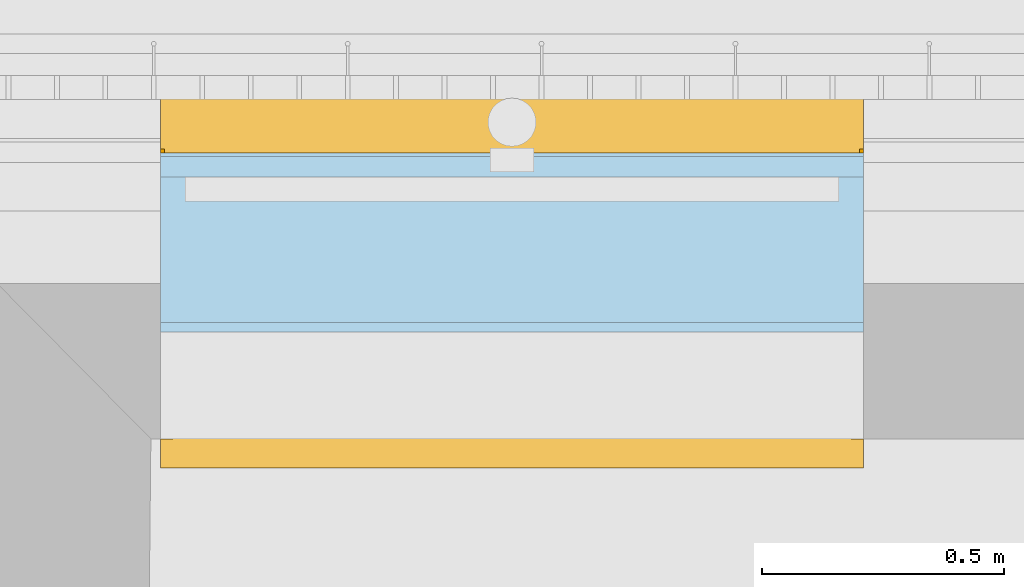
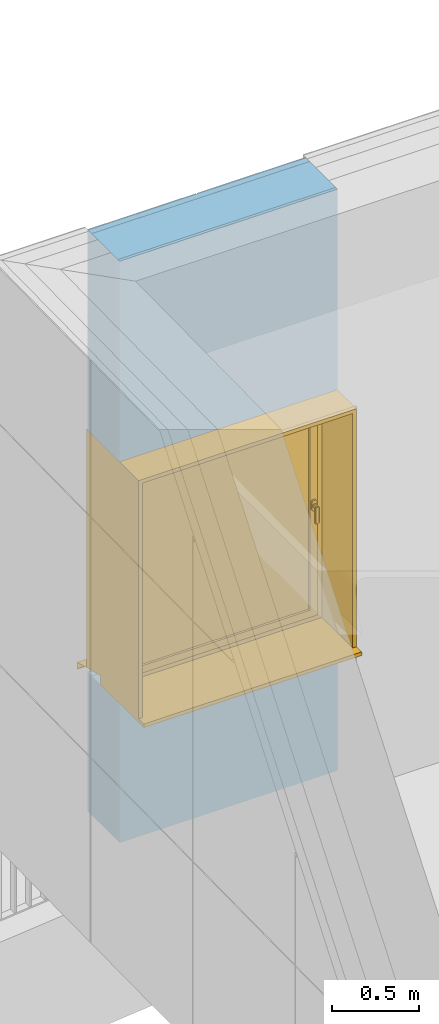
# One storey, part 132 of 418: 1 window, 2 openings, 1 element without a shape of its own, plus 4 elements that do not belong to this part.
"""IFC2X3 building model written with IfcOpenShell, lengths in millimetres."""

from ifc_helpers import new_model, entity, si_unit, converted_unit, derived_unit, money_unit, direction, frame, origin_with_axes, origin_2d_with_axis, place, context, subcontext, project, spatial, polyline, rectangle, outline, extrude, open_shell, faceted_brep, surface_model, material, type_object, element, fill, aggregate, save


model = new_model("IFC2X3")

# Units and contexts
model_context = context("Model", 3, precision=0.01, world=origin_with_axes(), true_north=direction((0.0, 1.0)))
body_context = subcontext(model_context, "Body", "Model", "MODEL_VIEW")
ifc_project = project(units=[si_unit("LENGTHUNIT", "METRE", prefix="MILLI"), si_unit("AREAUNIT", "SQUARE_METRE"), si_unit("VOLUMEUNIT", "CUBIC_METRE"), converted_unit("PLANEANGLEUNIT", "DEGREE", entity("IfcPlaneAngleMeasure", 0.0174532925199), si_unit("PLANEANGLEUNIT", "RADIAN"), dimensions=[0, 0, 0, 0, 0, 0, 0]), si_unit("SOLIDANGLEUNIT", "STERADIAN"), money_unit("EUR"), converted_unit("TIMEUNIT", "Year", entity("IfcTimeMeasure", 31556926.0), si_unit("TIMEUNIT", "SECOND"), dimensions=[0, 0, 1, 0, 0, 0, 0]), si_unit("MASSUNIT", "GRAM", prefix="KILO"), si_unit("THERMODYNAMICTEMPERATUREUNIT", "DEGREE_CELSIUS"), si_unit("LUMINOUSINTENSITYUNIT", "LUMEN"), si_unit("ENERGYUNIT", "JOULE", prefix="MEGA"), derived_unit("THERMALCONDUCTANCEUNIT", [(si_unit("POWERUNIT", "WATT"), 1), (si_unit("LENGTHUNIT", "METRE"), -1), (si_unit("THERMODYNAMICTEMPERATUREUNIT", "KELVIN"), -1)]), derived_unit("SPECIFICHEATCAPACITYUNIT", [(si_unit("ENERGYUNIT", "JOULE"), 1), (si_unit("MASSUNIT", "GRAM", prefix="KILO"), -1), (si_unit("THERMODYNAMICTEMPERATUREUNIT", "KELVIN"), -1)]), derived_unit("MASSDENSITYUNIT", [(si_unit("MASSUNIT", "GRAM", prefix="KILO"), 1), (si_unit("VOLUMEUNIT", "CUBIC_METRE"), -1)])], contexts=[model_context])

# Site, building, storey
site_placement = place(None, origin_with_axes())
site = spatial("IfcSite", under=ifc_project, at=site_placement, Name="Paldiski mnt 245/1, Tallinn, Harjumaa", CompositionType="COMPLEX")
building_placement = place(site_placement, origin_with_axes())
building = spatial("IfcBuilding", under=site, at=building_placement, Name="RKAS Hoone üldnimetus (kasutust iseloomustav) -> IFC Project Manager -> SOLIBRI", CompositionType="ELEMENT")
storey_placement = place(building_placement, origin_with_axes())
storey = spatial("IfcBuildingStorey", under=building, at=storey_placement, Name="Esimene korrus", CompositionType="ELEMENT", Elevation=0.0)

# Window
window_style = type_object("IfcWindowStyle", Name="Window 23", ConstructionType="NOTDEFINED", OperationType="SINGLE_PANEL", ParameterTakesPrecedence=False, Sizeable=False)
wall_placement = place(storey_placement, frame((-57859.3073259, 35989.8286373, 0.0), z_axis=(0.0, 0.0, 1.0), x_axis=(-1.0, 0.0, 0.0)))
opening_1_placement = place(wall_placement, frame((725.0, 0.0, 980.0), z_axis=(0.0, 0.0, 1.0), x_axis=(1.0, 0.0, 0.0)))
window_placement = place(opening_1_placement, frame((-725.0, 0.0, 0.0), z_axis=(0.0, 0.0, 1.0), x_axis=(1.0, 0.0, 0.0)))
window = element("IfcWindow", 1, at=window_placement, inside=storey, type_object=window_style, Name="A-06", ObjectType="WINDOW", OverallHeight=1700.0, OverallWidth=1450.0, context=body_context, shape_type="SurfaceModel", body=[
    surface_model("IfcShellBasedSurfaceModel", [(1450.0, -221.0, 75.0), (0.0, -221.0, 75.0), (0.0, -221.0, 65.0), (1450.0, -221.0, 65.0), (0.0, -490.0, -7.0), (1450.0, -490.0, -7.0), (0.0, -490.0, -57.0), (1450.0, -490.0, -57.0), (0.0, -470.0, -37.0), (1450.0, -470.0, -37.0)], [open_shell([[[0, 1, 2, 3]], [[3, 2, 4, 5]], [[5, 4, 6, 7]], [[7, 6, 8, 9]]])]),
    faceted_brep([(0.0, -135.0, 0.0), (0.0, -135.0, 25.0), (0.0, 0.0, 25.0), (0.0, 0.0, 0.0), (1450.0, -135.0, 0.0), (1450.0, -135.0, 25.0), (1450.0, 0.0, 25.0), (1450.0, 280.0, 25.0), (0.0, 280.0, 25.0), (0.0, 280.0, 0.0), (1450.0, 280.0, 0.0), (1450.0, 0.0, 0.0)], [[[0, 1, 2, 3]], [[4, 5, 1, 0]], [[1, 5, 6, 7, 8, 2]], [[3, 2, 8, 9]], [[0, 3, 9, 10, 11, 4]], [[11, 6, 5, 4]], [[10, 7, 6, 11]], [[9, 8, 7, 10]]]),
    faceted_brep([(1450.0, -135.0, 25.0), (1450.0, -135.0, 1700.0), (1424.0, -135.0, 1674.0), (1424.0, -135.0, 25.0), (1450.0, 0.0, 25.0), (1450.0, 0.0, 1700.0), (1424.0, 0.0, 1674.0), (1424.0, 0.0, 25.0)], [[[0, 1, 2, 3]], [[4, 5, 1, 0]], [[6, 2, 1, 5]], [[3, 2, 6, 7]], [[7, 4, 0, 3]], [[7, 6, 5, 4]]]),
    faceted_brep([(26.0, -135.0, 25.0), (26.0, -135.0, 1674.0), (0.0, -135.0, 1700.0), (0.0, -135.0, 25.0), (26.0, 0.0, 25.0), (26.0, 0.0, 1674.0), (0.0, 0.0, 1700.0), (0.0, 0.0, 25.0)], [[[0, 1, 2, 3]], [[4, 5, 1, 0]], [[6, 2, 1, 5]], [[3, 2, 6, 7]], [[7, 4, 0, 3]], [[7, 6, 5, 4]]]),
    faceted_brep([(1424.0, -135.0, 1674.0), (26.0, -135.0, 1674.0), (26.0, 0.0, 1674.0), (1424.0, 0.0, 1674.0), (1450.0, -135.0, 1700.0), (0.0, -135.0, 1700.0), (0.0, 0.0, 1700.0), (1450.0, 0.0, 1700.0)], [[[0, 1, 2, 3]], [[0, 4, 5, 1]], [[1, 5, 6, 2]], [[3, 2, 6, 7]], [[4, 0, 3, 7]], [[5, 4, 7, 6]]]),
    faceted_brep([(1450.0, 0.0, 25.0), (1450.0, 0.0, 1700.0), (1424.0, 0.0, 1674.0), (1424.0, 0.0, 25.0), (1450.0, 220.0, 25.0), (1450.0, 220.0, 1700.0), (1424.0, 220.0, 1674.0), (1424.0, 220.0, 25.0)], [[[0, 1, 2, 3]], [[4, 5, 1, 0]], [[5, 6, 2, 1]], [[3, 2, 6, 7]], [[7, 4, 0, 3]], [[7, 6, 5, 4]]]),
    faceted_brep([(26.0, 0.0, 25.0), (26.0, 0.0, 1674.0), (0.0, 0.0, 1700.0), (0.0, 0.0, 25.0), (26.0, 220.0, 25.0), (26.0, 220.0, 1674.0), (0.0, 220.0, 1700.0), (0.0, 220.0, 25.0)], [[[0, 1, 2, 3]], [[4, 5, 1, 0]], [[5, 6, 2, 1]], [[3, 2, 6, 7]], [[7, 4, 0, 3]], [[7, 6, 5, 4]]]),
    faceted_brep([(1450.0, 220.0, 1700.0), (1450.0, 0.0, 1700.0), (1424.0, 0.0, 1674.0), (1424.0, 220.0, 1674.0), (0.0, 220.0, 1700.0), (0.0, 0.0, 1700.0), (26.0, 0.0, 1674.0), (26.0, 220.0, 1674.0)], [[[0, 1, 2, 3]], [[4, 5, 1, 0]], [[1, 5, 6, 2]], [[3, 2, 6, 7]], [[0, 3, 7, 4]], [[7, 6, 5, 4]]]),
    faceted_brep([(1442.0, -370.0, 25.1189591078), (1442.0, -370.0, 1692.0), (1442.0, -220.0, 1692.0), (1442.0, -220.0, 75.0), (1442.0, -221.0, 75.0), (1442.0, -221.0, 65.0), (1450.0, -370.0, 25.1189591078), (1450.0, -370.0, 1700.0), (1450.0, -220.0, 1700.0), (1450.0, -220.0, 75.0), (1450.0, -221.0, 75.0), (1450.0, -221.0, 65.0)], [[[0, 1, 2, 3, 4, 5]], [[6, 7, 1, 0]], [[8, 2, 1, 7]], [[3, 2, 8, 9]], [[3, 9, 10, 4]], [[4, 10, 11, 5]], [[5, 11, 6, 0]], [[11, 10, 9, 8, 7, 6]]]),
    faceted_brep([(0.0, -370.0, 25.1189591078), (0.0, -370.0, 1700.0), (0.0, -220.0, 1700.0), (0.0, -220.0, 75.0), (0.0, -221.0, 75.0), (0.0, -221.0, 65.0), (8.0, -370.0, 25.1189591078), (8.0, -370.0, 1692.0), (8.0, -220.0, 1692.0), (8.0, -220.0, 75.0), (8.0, -221.0, 75.0), (8.0, -221.0, 65.0)], [[[0, 1, 2, 3, 4, 5]], [[6, 7, 1, 0]], [[8, 2, 1, 7]], [[3, 2, 8, 9]], [[3, 9, 10, 4]], [[4, 10, 11, 5]], [[5, 11, 6, 0]], [[11, 10, 9, 8, 7, 6]]]),
    faceted_brep([(1450.0, -220.0, 1700.0), (1450.0, -370.0, 1700.0), (1442.0, -370.0, 1692.0), (1442.0, -220.0, 1692.0), (0.0, -220.0, 1700.0), (0.0, -370.0, 1700.0), (8.0, -370.0, 1692.0), (8.0, -220.0, 1692.0)], [[[0, 1, 2, 3]], [[4, 5, 1, 0]], [[1, 5, 6, 2]], [[3, 2, 6, 7]], [[0, 3, 7, 4]], [[7, 6, 5, 4]]]),
    faceted_brep([(1442.0, -378.0, 22.9776951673), (1442.0, -378.0, 1692.0), (1442.0, -370.0, 1692.0), (1442.0, -370.0, 25.1189591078), (1450.0, -378.0, 22.9776951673), (1450.0, -378.0, 1700.0), (1450.0, -370.0, 1700.0), (1450.0, -370.0, 25.1189591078)], [[[0, 1, 2, 3]], [[4, 5, 1, 0]], [[2, 1, 5, 6]], [[3, 2, 6, 7]], [[7, 4, 0, 3]], [[7, 6, 5, 4]]]),
    faceted_brep([(0.0, -378.0, 22.9776951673), (0.0, -378.0, 1700.0), (0.0, -370.0, 1700.0), (0.0, -370.0, 25.1189591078), (8.0, -378.0, 22.9776951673), (8.0, -378.0, 1692.0), (8.0, -370.0, 1692.0), (8.0, -370.0, 25.1189591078)], [[[0, 1, 2, 3]], [[4, 5, 1, 0]], [[2, 1, 5, 6]], [[3, 2, 6, 7]], [[7, 4, 0, 3]], [[7, 6, 5, 4]]]),
    faceted_brep([(1450.0, -378.0, 1700.0), (1442.0, -378.0, 1692.0), (1442.0, -370.0, 1692.0), (1450.0, -370.0, 1700.0), (0.0, -378.0, 1700.0), (8.0, -378.0, 1692.0), (8.0, -370.0, 1692.0), (0.0, -370.0, 1700.0)], [[[0, 1, 2, 3]], [[0, 4, 5, 1]], [[1, 5, 6, 2]], [[3, 2, 6, 7]], [[4, 0, 3, 7]], [[5, 4, 7, 6]]]),
    faceted_brep([(1350.0, -170.0, 1600.0), (1350.0, -220.0, 1600.0), (1450.0, -220.0, 1600.0), (1450.0, -170.0, 1600.0), (1350.0, -170.0, 100.0), (1350.0, -220.0, 100.0), (1450.0, -220.0, 100.0), (1450.0, -170.0, 100.0)], [[[0, 1, 2, 3]], [[4, 5, 1, 0]], [[2, 1, 5, 6]], [[3, 2, 6, 7]], [[4, 0, 3, 7]], [[7, 6, 5, 4]]]),
    faceted_brep([(100.0, -170.0, 100.0), (100.0, -220.0, 100.0), (0.0, -220.0, 100.0), (0.0, -170.0, 100.0), (100.0, -170.0, 1600.0), (100.0, -220.0, 1600.0), (0.0, -220.0, 1600.0), (0.0, -170.0, 1600.0)], [[[0, 1, 2, 3]], [[4, 5, 1, 0]], [[2, 1, 5, 6]], [[3, 2, 6, 7]], [[4, 0, 3, 7]], [[7, 6, 5, 4]]]),
    faceted_brep([(1350.0, -170.0, 100.0), (1350.0, -220.0, 100.0), (1450.0, -220.0, 100.0), (1450.0, -170.0, 100.0), (100.0, -170.0, 100.0), (100.0, -220.0, 100.0), (0.0, -220.0, 100.0), (0.0, -220.0, 0.0), (1450.0, -220.0, 0.0), (1450.0, -170.0, 0.0), (0.0, -170.0, 0.0), (0.0, -170.0, 100.0)], [[[0, 1, 2, 3]], [[4, 5, 1, 0]], [[2, 1, 5, 6, 7, 8]], [[3, 2, 8, 9]], [[4, 0, 3, 9, 10, 11]], [[11, 6, 5, 4]], [[10, 7, 6, 11]], [[9, 8, 7, 10]]]),
    faceted_brep([(100.0, -170.0, 1600.0), (100.0, -220.0, 1600.0), (0.0, -220.0, 1600.0), (0.0, -170.0, 1600.0), (1350.0, -170.0, 1600.0), (1350.0, -220.0, 1600.0), (1450.0, -220.0, 1600.0), (1450.0, -220.0, 1700.0), (0.0, -220.0, 1700.0), (0.0, -170.0, 1700.0), (1450.0, -170.0, 1700.0), (1450.0, -170.0, 1600.0)], [[[0, 1, 2, 3]], [[4, 5, 1, 0]], [[2, 1, 5, 6, 7, 8]], [[3, 2, 8, 9]], [[4, 0, 3, 9, 10, 11]], [[11, 6, 5, 4]], [[10, 7, 6, 11]], [[9, 8, 7, 10]]]),
    faceted_brep([(1385.0, -135.0, 100.0), (1385.0, -135.0, 1600.0), (1450.0, -135.0, 1600.0), (1450.0, -135.0, 100.0), (1385.0, -170.0, 1600.0), (1385.0, -170.0, 100.0), (1450.0, -170.0, 1600.0), (1450.0, -170.0, 100.0)], [[[0, 1, 2, 3]], [[4, 1, 0, 5]], [[1, 4, 6, 2]], [[2, 6, 7, 3]], [[5, 0, 3, 7]], [[4, 5, 7, 6]]]),
    faceted_brep([(65.0, -170.0, 1600.0), (65.0, -135.0, 1600.0), (0.0, -135.0, 1600.0), (0.0, -170.0, 1600.0), (65.0, -135.0, 100.0), (65.0, -170.0, 100.0), (0.0, -135.0, 100.0), (0.0, -170.0, 100.0)], [[[0, 1, 2, 3]], [[4, 1, 0, 5]], [[1, 4, 6, 2]], [[6, 7, 3, 2]], [[5, 0, 3, 7]], [[4, 5, 7, 6]]]),
    faceted_brep([(65.0, -170.0, 100.0), (65.0, -135.0, 100.0), (0.0, -135.0, 100.0), (0.0, -170.0, 100.0), (65.0, -135.0, 65.0), (65.0, -170.0, 65.0), (1385.0, -135.0, 65.0), (1385.0, -135.0, 100.0), (1450.0, -135.0, 100.0), (1450.0, -135.0, 0.0), (0.0, -135.0, 0.0), (0.0, -170.0, 0.0), (1450.0, -170.0, 0.0), (1450.0, -170.0, 100.0), (1385.0, -170.0, 100.0), (1385.0, -170.0, 65.0)], [[[0, 1, 2, 3]], [[4, 1, 0, 5]], [[6, 7, 8, 9, 10, 2, 1, 4]], [[10, 11, 3, 2]], [[5, 0, 3, 11, 12, 13, 14, 15]], [[6, 4, 5, 15]], [[14, 7, 6, 15]], [[7, 14, 13, 8]], [[8, 13, 12, 9]], [[9, 12, 11, 10]]]),
    faceted_brep([(1385.0, -135.0, 1600.0), (1385.0, -135.0, 1635.0), (65.0, -135.0, 1635.0), (65.0, -135.0, 1600.0), (0.0, -135.0, 1600.0), (0.0, -135.0, 1700.0), (1450.0, -135.0, 1700.0), (1450.0, -135.0, 1600.0), (1385.0, -170.0, 1600.0), (1385.0, -170.0, 1635.0), (65.0, -170.0, 1635.0), (65.0, -170.0, 1600.0), (0.0, -170.0, 1600.0), (0.0, -170.0, 1700.0), (1450.0, -170.0, 1700.0), (1450.0, -170.0, 1600.0)], [[[0, 1, 2, 3, 4, 5, 6, 7]], [[1, 0, 8, 9]], [[2, 1, 9, 10]], [[3, 2, 10, 11]], [[3, 11, 12, 4]], [[4, 12, 13, 5]], [[5, 13, 14, 6]], [[6, 14, 15, 7]], [[8, 0, 7, 15]], [[9, 8, 15, 14, 13, 12, 11, 10]]]),
    faceted_brep([(74.0, -120.0, 877.0), (75.3397459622, -120.0, 882.0), (75.3397459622, -108.0, 882.0), (74.0, -108.0, 877.0), (74.0, -120.0, 823.0), (75.3397459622, -120.0, 818.0), (79.0, -120.0, 814.339745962), (84.0, -120.0, 813.0), (96.0, -120.0, 813.0), (101.0, -120.0, 814.339745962), (104.660254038, -120.0, 818.0), (106.0, -120.0, 823.0), (106.0, -120.0, 877.0), (104.660254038, -120.0, 882.0), (101.0, -120.0, 885.660254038), (96.0, -120.0, 887.0), (84.0, -120.0, 887.0), (79.0, -120.0, 885.660254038), (79.0, -108.0, 885.660254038), (84.0, -108.0, 887.0), (96.0, -108.0, 887.0), (101.0, -108.0, 885.660254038), (104.660254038, -108.0, 882.0), (106.0, -108.0, 877.0), (106.0, -108.0, 823.0), (104.660254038, -108.0, 818.0), (101.0, -108.0, 814.339745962), (96.0, -108.0, 813.0), (84.0, -108.0, 813.0), (79.0, -108.0, 814.339745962), (75.3397459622, -108.0, 818.0), (74.0, -108.0, 823.0)], [[[0, 1, 2, 3]], [[0, 4, 5, 6, 7, 8, 9, 10, 11, 12, 13, 14, 15, 16, 17, 1]], [[1, 17, 18, 2]], [[3, 2, 18, 19, 20, 21, 22, 23, 24, 25, 26, 27, 28, 29, 30, 31]], [[4, 0, 3, 31]], [[5, 4, 31, 30]], [[6, 5, 30, 29]], [[7, 6, 29, 28]], [[8, 7, 28, 27]], [[9, 8, 27, 26]], [[10, 9, 26, 25]], [[11, 10, 25, 24]], [[12, 11, 24, 23]], [[13, 12, 23, 22]], [[14, 13, 22, 21]], [[15, 14, 21, 20]], [[16, 15, 20, 19]], [[17, 16, 19, 18]]]),
    faceted_brep([(90.0, -108.0, 863.5), (96.75, -108.0, 861.691342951), (96.75, -84.0, 861.691342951), (90.0, -84.0, 863.5), (83.25, -108.0, 861.691342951), (78.3086570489, -108.0, 856.75), (76.5, -108.0, 850.0), (78.3086570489, -108.0, 843.25), (83.25, -108.0, 838.308657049), (90.0, -108.0, 836.5), (96.75, -108.0, 838.308657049), (101.691342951, -108.0, 843.25), (103.5, -108.0, 850.0), (101.691342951, -108.0, 856.75), (101.691342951, -84.0, 856.75), (103.5, -84.0, 850.0), (101.691342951, -84.0, 843.25), (96.75, -84.0, 838.308657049), (90.0, -84.0, 836.5), (83.25, -84.0, 838.308657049), (78.3086570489, -84.0, 843.25), (76.5, -84.0, 850.0), (78.3086570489, -84.0, 856.75), (83.25, -84.0, 861.691342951)], [[[0, 1, 2, 3]], [[0, 4, 5, 6, 7, 8, 9, 10, 11, 12, 13, 1]], [[1, 13, 14, 2]], [[3, 2, 14, 15, 16, 17, 18, 19, 20, 21, 22, 23]], [[4, 0, 3, 23]], [[5, 4, 23, 22]], [[6, 5, 22, 21]], [[7, 6, 21, 20]], [[8, 7, 20, 19]], [[9, 8, 19, 18]], [[10, 9, 18, 17]], [[11, 10, 17, 16]], [[12, 11, 16, 15]], [[13, 12, 15, 14]]]),
    faceted_brep([(78.5, -84.0, 743.0), (90.0, -84.0, 740.0), (101.5, -84.0, 743.0), (103.5, -84.0, 746.0), (103.5, -84.0, 850.0), (101.691342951, -84.0, 856.75), (96.75, -84.0, 861.691342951), (90.0, -84.0, 863.5), (83.25, -84.0, 861.691342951), (78.3086570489, -84.0, 856.75), (76.5, -84.0, 850.0), (76.5, -84.0, 746.0), (78.4999999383, -76.0, 743.000000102), (89.9999999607, -76.0, 739.99999961), (101.499999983, -76.0, 743.000000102), (103.500000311, -76.0, 745.999999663), (103.500000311, -76.0, 849.999999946), (101.691343, -76.0, 856.749999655), (96.7499996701, -76.0, 861.691342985), (89.9999999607, -76.0, 863.500000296), (83.2500002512, -76.0, 861.691342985), (78.3086569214, -76.0, 856.749999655), (76.4999996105, -76.0, 849.999999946), (76.4999996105, -76.0, 745.999999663), (80.3625374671, -73.0000004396, 745.614519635), (89.9999999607, -73.0000004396, 743.100398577), (99.6374624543, -73.0000004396, 745.614519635), (100.50000075, -73.0000004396, 746.908326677), (100.50000075, -73.0000004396, 849.605042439), (99.0016170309, -73.0000004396, 855.197085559), (95.1970855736, -73.0000004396, 859.001617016), (89.9999999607, -73.0000004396, 860.394172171), (84.8029143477, -73.0000004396, 859.001617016), (80.9983828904, -73.0000004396, 855.197085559), (79.4999991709, -73.0000004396, 849.605042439), (79.4999991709, -73.0000004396, 746.908326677)], [[[0, 1, 2, 3, 4, 5, 6, 7, 8, 9, 10, 11]], [[1, 0, 12, 13]], [[2, 1, 13, 14]], [[3, 2, 14, 15]], [[4, 3, 15, 16]], [[5, 4, 16, 17]], [[6, 5, 17, 18]], [[7, 6, 18, 19]], [[8, 7, 19, 20]], [[9, 8, 20, 21]], [[10, 9, 21, 22]], [[11, 10, 22, 23]], [[0, 11, 23, 12]], [[13, 12, 24, 25]], [[14, 13, 25, 26]], [[15, 14, 26, 27]], [[16, 15, 27, 28]], [[17, 16, 28, 29]], [[18, 17, 29, 30]], [[19, 18, 30, 31]], [[20, 19, 31, 32]], [[21, 20, 32, 33]], [[22, 21, 33, 34]], [[23, 22, 34, 35]], [[12, 23, 35, 24]], [[26, 25, 24, 35, 34, 33, 32, 31, 30, 29, 28, 27]]]),
    faceted_brep([(1335.0, -170.0, 1585.0), (1385.0, -170.0, 1585.0), (1385.0, -155.0, 1585.0), (1335.0, -155.0, 1585.0), (1335.0, -170.0, 115.0), (1385.0, -170.0, 115.0), (1385.0, -155.0, 115.0), (1335.0, -155.0, 115.0)], [[[0, 1, 2, 3]], [[0, 4, 5, 1]], [[1, 5, 6, 2]], [[3, 2, 6, 7]], [[4, 0, 3, 7]], [[5, 4, 7, 6]]]),
    faceted_brep([(115.0, -170.0, 115.0), (65.0, -170.0, 115.0), (65.0, -155.0, 115.0), (115.0, -155.0, 115.0), (115.0, -170.0, 1585.0), (65.0, -170.0, 1585.0), (65.0, -155.0, 1585.0), (115.0, -155.0, 1585.0)], [[[0, 1, 2, 3]], [[0, 4, 5, 1]], [[1, 5, 6, 2]], [[3, 2, 6, 7]], [[4, 0, 3, 7]], [[5, 4, 7, 6]]]),
    faceted_brep([(65.0, -170.0, 65.0), (65.0, -170.0, 115.0), (65.0, -155.0, 115.0), (65.0, -155.0, 65.0), (1385.0, -170.0, 65.0), (1385.0, -170.0, 115.0), (1335.0, -170.0, 115.0), (115.0, -170.0, 115.0), (115.0, -155.0, 115.0), (1335.0, -155.0, 115.0), (1385.0, -155.0, 115.0), (1385.0, -155.0, 65.0)], [[[0, 1, 2, 3]], [[0, 4, 5, 6, 7, 1]], [[1, 7, 8, 2]], [[3, 2, 8, 9, 10, 11]], [[4, 0, 3, 11]], [[5, 4, 11, 10]], [[6, 5, 10, 9]], [[7, 6, 9, 8]]]),
    faceted_brep([(1385.0, -170.0, 1635.0), (1385.0, -170.0, 1585.0), (1385.0, -155.0, 1585.0), (1385.0, -155.0, 1635.0), (65.0, -170.0, 1635.0), (65.0, -170.0, 1585.0), (115.0, -170.0, 1585.0), (1335.0, -170.0, 1585.0), (1335.0, -155.0, 1585.0), (115.0, -155.0, 1585.0), (65.0, -155.0, 1585.0), (65.0, -155.0, 1635.0)], [[[0, 1, 2, 3]], [[0, 4, 5, 6, 7, 1]], [[1, 7, 8, 2]], [[3, 2, 8, 9, 10, 11]], [[4, 0, 3, 11]], [[5, 4, 11, 10]], [[6, 5, 10, 9]], [[7, 6, 9, 8]]]),
    faceted_brep([(1335.0, -155.0, 1585.0), (1385.0, -155.0, 1585.0), (1385.0, -120.0, 1585.0), (1335.0, -120.0, 1585.0), (1335.0, -155.0, 115.0), (1385.0, -155.0, 115.0), (1385.0, -120.0, 115.0), (1335.0, -120.0, 115.0)], [[[0, 1, 2, 3]], [[0, 4, 5, 1]], [[1, 5, 6, 2]], [[3, 2, 6, 7]], [[4, 0, 3, 7]], [[5, 4, 7, 6]]]),
    faceted_brep([(115.0, -155.0, 115.0), (65.0, -155.0, 115.0), (65.0, -120.0, 115.0), (115.0, -120.0, 115.0), (115.0, -155.0, 1585.0), (65.0, -155.0, 1585.0), (65.0, -120.0, 1585.0), (115.0, -120.0, 1585.0)], [[[0, 1, 2, 3]], [[0, 4, 5, 1]], [[1, 5, 6, 2]], [[3, 2, 6, 7]], [[4, 0, 3, 7]], [[5, 4, 7, 6]]]),
    faceted_brep([(65.0, -155.0, 65.0), (65.0, -155.0, 115.0), (65.0, -120.0, 115.0), (65.0, -120.0, 65.0), (1385.0, -155.0, 65.0), (1385.0, -155.0, 115.0), (1335.0, -155.0, 115.0), (115.0, -155.0, 115.0), (115.0, -120.0, 115.0), (1335.0, -120.0, 115.0), (1385.0, -120.0, 115.0), (1385.0, -120.0, 65.0)], [[[0, 1, 2, 3]], [[0, 4, 5, 6, 7, 1]], [[1, 7, 8, 2]], [[3, 2, 8, 9, 10, 11]], [[4, 0, 3, 11]], [[5, 4, 11, 10]], [[6, 5, 10, 9]], [[7, 6, 9, 8]]]),
    faceted_brep([(1385.0, -155.0, 1635.0), (1385.0, -155.0, 1585.0), (1385.0, -120.0, 1585.0), (1385.0, -120.0, 1635.0), (65.0, -155.0, 1635.0), (65.0, -155.0, 1585.0), (115.0, -155.0, 1585.0), (1335.0, -155.0, 1585.0), (1335.0, -120.0, 1585.0), (115.0, -120.0, 1585.0), (65.0, -120.0, 1585.0), (65.0, -120.0, 1635.0)], [[[0, 1, 2, 3]], [[0, 4, 5, 6, 7, 1]], [[1, 7, 8, 2]], [[3, 2, 8, 9, 10, 11]], [[4, 0, 3, 11]], [[5, 4, 11, 10]], [[6, 5, 10, 9]], [[7, 6, 9, 8]]]),
    surface_model("IfcShellBasedSurfaceModel", [(1335.0, -155.0, 115.0), (1335.0, -155.0, 1585.0), (115.0, -155.0, 1585.0), (115.0, -155.0, 115.0)], [open_shell([[[0, 1, 2, 3]]])]),
    surface_model("IfcShellBasedSurfaceModel", [(1335.0, -135.0, 115.0), (115.0, -135.0, 115.0), (115.0, -135.0, 1585.0), (1335.0, -135.0, 1585.0)], [open_shell([[[0, 1, 2, 3]]])]),
])

# Wall, opening
wall_type = type_object("IfcWallType", Name="VS-05D_uued_kihid 370", PredefinedType="NOTDEFINED")
wall = element("IfcWall", 2, at=wall_placement, inside=storey, type_object=wall_type, Name="VS-05")
opening_1 = element("IfcOpeningElement", 3, at=opening_1_placement, cuts=wall, Name="A-06", context=body_context, shape_type="SweptSolid", body=[
    extrude(rectangle(XDim=1450.0, YDim=1700.0, at=origin_2d_with_axis()), frame((0.0, -220.0, 850.0), z_axis=(0.0, 1.0, 0.0), x_axis=(-1.0, 0.0, 0.0)), (0.0, 0.0, 1.0), 590.0),
    extrude(rectangle(XDim=1450.0, YDim=1700.0, at=origin_2d_with_axis()), frame((0.0, -220.0, 850.0), z_axis=(0.0, -1.0, 0.0), x_axis=(-1.0, 0.0, 0.0)), (0.0, 0.0, 1.0), 520.0),
    extrude(rectangle(XDim=1450.0, YDim=1700.0, at=origin_2d_with_axis()), frame((0.0, 0.0, 850.0), z_axis=(0.0, 1.0, 0.0), x_axis=(-1.0, 0.0, 0.0)), (0.0, 0.0, 1.0), 520.0),
    extrude(rectangle(XDim=1450.0, YDim=1708.0, at=origin_2d_with_axis()), frame((0.0, -370.0, 846.0), z_axis=(0.0, -1.0, 0.0), x_axis=(-1.0, 0.0, 0.0)), (0.0, 0.0, 1.0), 520.0),
])

fill(opening_1, window)

# Opening
opening_2_placement = place(wall_placement, frame((725.0, 0.0, 0.0), z_axis=(0.0, 0.0, 1.0), x_axis=(1.0, 0.0, 0.0)))
element("IfcOpeningElement", 4, at=opening_2_placement, cuts=wall, Name="Cembrit fassaadiplaadi vuuk", context=body_context, shape_type="SweptSolid", body=[
    extrude(outline(polyline([(-3.99999999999, 0.0), (4.0, 0.0), (4.0, 4090.0), (-3.99999999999, 4090.0), (-3.99999999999, 0.0)])), frame((0.0, -362.0, 0.0), z_axis=(0.0, 1.0, 0.0), x_axis=(-1.0, 0.0, 0.0)), (0.0, 0.0, -1.0), 378.0),
])

# Building element part
ifc_material_1 = material(Name="Cembrit_C060")
building_element_part_1_placement = place(wall_placement, origin_with_axes())
building_element_part_1 = element("IfcBuildingElementPart", 5, at=building_element_part_1_placement, material=ifc_material_1, Name="Cembrit_C060", context=body_context, shape_type="SweptSolid", body=[
    extrude(outline(polyline([(0.0, -370.0), (1450.0, -370.0), (1450.0, -362.0), (0.0, -362.0), (0.0, -370.0)])), origin_with_axes(), (0.0, 0.0, 1.0), 4090.0),
])

ifc_material_2 = material(Name="VKR-06_Õhkvahe")
building_element_part_2_placement = place(wall_placement, origin_with_axes())
building_element_part_2 = element("IfcBuildingElementPart", 6, at=building_element_part_2_placement, material=ifc_material_2, Name="VKR-06_Õhkvahe", context=body_context, shape_type="SweptSolid", body=[
    extrude(outline(polyline([(0.0, -362.0), (1450.0, -362.0), (1450.0, -320.0), (0.0, -320.0), (0.0, -362.0)])), origin_with_axes(), (0.0, 0.0, 1.0), 4090.0),
])

ifc_material_3 = material(Name="Kingspan Kooltherm")
building_element_part_3_placement = place(wall_placement, origin_with_axes())
building_element_part_3 = element("IfcBuildingElementPart", 7, at=building_element_part_3_placement, material=ifc_material_3, Name="Kingspan Kooltherm", context=body_context, shape_type="SweptSolid", body=[
    extrude(outline(polyline([(0.0, -320.0), (1450.0, -320.0), (1450.0, -20.0), (0.0, -20.0), (0.0, -320.0)])), origin_with_axes(), (0.0, 0.0, 1.0), 4090.0),
])

ifc_material_4 = material(Name="Tasanduskrohv")
building_element_part_4_placement = place(wall_placement, origin_with_axes())
building_element_part_4 = element("IfcBuildingElementPart", 8, at=building_element_part_4_placement, material=ifc_material_4, Name="Tasanduskrohv", context=body_context, shape_type="SweptSolid", body=[
    extrude(outline(polyline([(0.0, -20.0), (1450.0, -20.0), (1450.0, 0.0), (0.0, 0.0), (0.0, -20.0)])), origin_with_axes(), (0.0, 0.0, 1.0), 4090.0),
])

aggregate(wall, [building_element_part_1, building_element_part_2, building_element_part_3, building_element_part_4])

save(model, "model.ifc")
